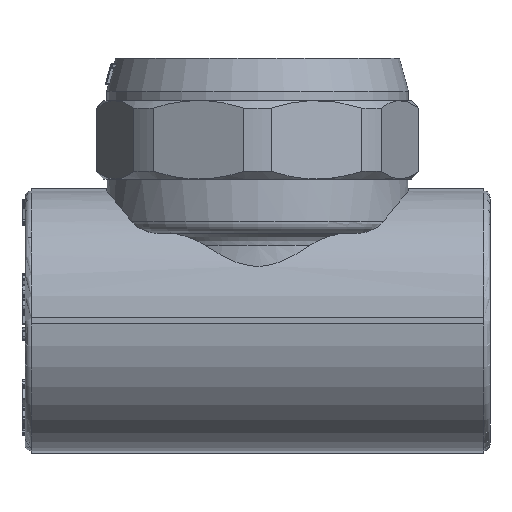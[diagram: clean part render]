
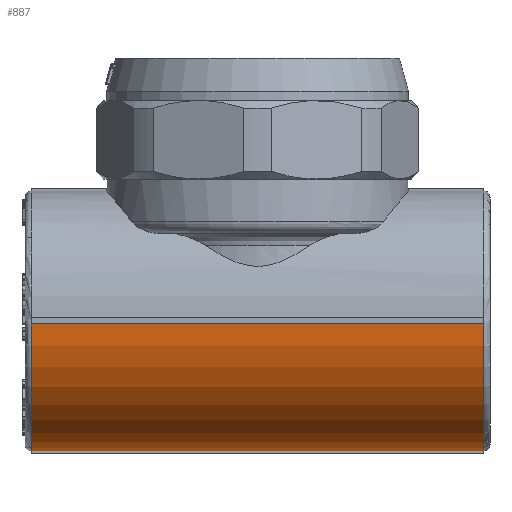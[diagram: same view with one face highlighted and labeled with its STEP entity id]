
A CAD part, left-side view. The second image highlights one B-rep face of the part: STEP entity #887.
In plain terms, the highlighted cylindrical face has radius 21.5 mm (diameter 43 mm), a partial arc.
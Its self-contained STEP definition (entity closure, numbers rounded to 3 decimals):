
#887=ADVANCED_FACE('',(#5345),#5347,.T.);
#5345=FACE_BOUND('',#5346,.T.);
#5346=EDGE_LOOP('',(#11436,#11437,#11438,#11439));
#5347=CYLINDRICAL_SURFACE('',#5348,21.5);
#5348=AXIS2_PLACEMENT_3D('',#5349,#5350,#5351);
#5349=CARTESIAN_POINT('',(0.,-38.5,0.));
#5350=DIRECTION('',(0.,1.,0.));
#5351=DIRECTION('',(-1.,0.,0.));
#11436=ORIENTED_EDGE('',*,*,#14787,.F.);
#11437=ORIENTED_EDGE('',*,*,#13869,.T.);
#11438=ORIENTED_EDGE('',*,*,#14788,.F.);
#11439=ORIENTED_EDGE('',*,*,#13876,.F.);
#13869=EDGE_CURVE('',#16987,#16985,#16988,.T.);
#13876=EDGE_CURVE('',#16999,#17001,#17002,.T.);
#14787=EDGE_CURVE('',#16987,#16999,#18372,.T.);
#14788=EDGE_CURVE('',#17001,#16985,#18373,.F.);
#16985=VERTEX_POINT('',#25797);
#16987=VERTEX_POINT('',#25802);
#16988=CIRCLE('',#25803,21.5);
#16999=VERTEX_POINT('',#25832);
#17001=VERTEX_POINT('',#25837);
#17002=CIRCLE('',#25838,21.5);
#18372=LINE('',#29039,#29040);
#18373=LINE('',#29042,#29043);
#25797=CARTESIAN_POINT('',(-21.494,-37.5,-0.5));
#25802=CARTESIAN_POINT('',(-0.5,-37.5,-21.494));
#25803=AXIS2_PLACEMENT_3D('',#25804,#25805,#25806);
#25804=CARTESIAN_POINT('',(0.,-37.5,0.));
#25805=DIRECTION('',(0.,1.,0.));
#25806=DIRECTION('',(-0.023,0.,-1.));
#25832=CARTESIAN_POINT('',(-0.5,37.5,-21.494));
#25837=CARTESIAN_POINT('',(-21.494,37.5,-0.5));
#25838=AXIS2_PLACEMENT_3D('',#25839,#25840,#25841);
#25839=CARTESIAN_POINT('',(0.,37.5,0.));
#25840=DIRECTION('',(0.,1.,0.));
#25841=DIRECTION('',(-0.023,0.,-1.));
#29039=CARTESIAN_POINT('',(-0.5,-37.5,-21.494));
#29040=VECTOR('',#29041,1.);
#29041=DIRECTION('',(0.,1.,0.));
#29042=CARTESIAN_POINT('',(-21.494,-37.5,-0.5));
#29043=VECTOR('',#29044,1.);
#29044=DIRECTION('',(0.,1.,0.));
